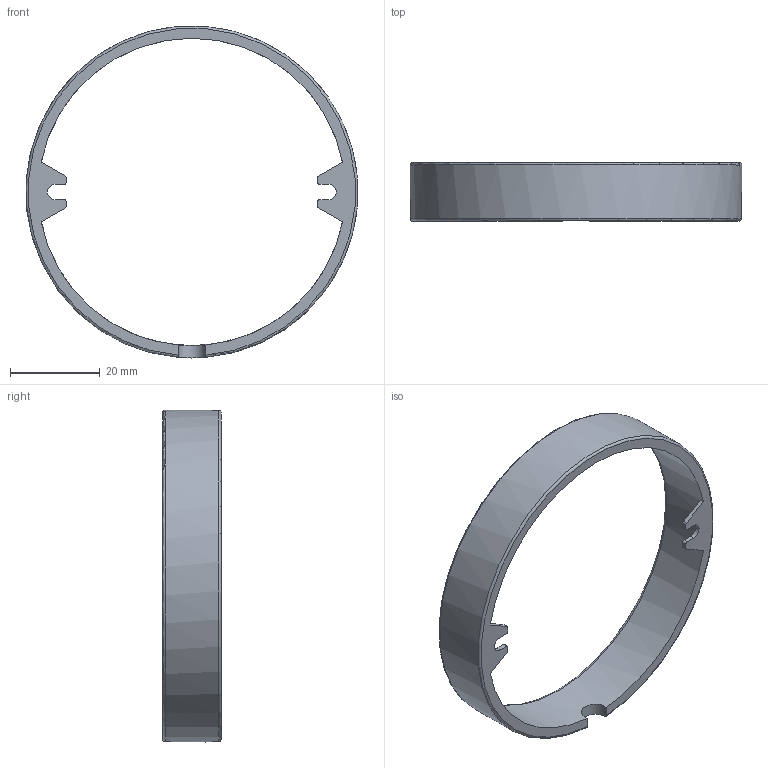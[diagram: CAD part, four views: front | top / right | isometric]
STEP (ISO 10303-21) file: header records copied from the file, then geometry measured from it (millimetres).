
FILE_DESCRIPTION(/* description */ (''),/* implementation_level */ '2;1');
FILE_NAME(/* name */ '5995498_5995489_HCL-317C Taoquan.stp',/* time_stamp */ '2019-06-03T09:44:58+02:00',/* author */ (''),/* organization */ (''),/* preprocessor_version */ 'ST-DEVELOPER v16.7',/* originating_system */ 'SIEMENS PLM Software NX 12.0',/* authorisation */ '');
FILE_SCHEMA (('AUTOMOTIVE_DESIGN { 1 0 10303 214 3 1 1 1 }'));
Length unit declared in the file: millimetre
Products named in the file (1): p.sc2314416Cicmr
Bounding box: 73.95 x 13 x 73.99 mm (x, y, z)
Volume: 7996.7 mm3; surface area: 7076.4 mm2
Topology: 1 solids, 1 shells, 34 faces, 98 edges, 65 vertices
Faces by surface type: plane 18, cylinder 13, torus 3
Full cylindrical faces by diameter (mm): 68.5 x1, 74 x1
Entity records: 1199 total; most frequent: CARTESIAN_POINT 281, DIRECTION 188, ORIENTED_EDGE 182, EDGE_CURVE 91, AXIS2_PLACEMENT_3D 66, VERTEX_POINT 62, LINE 56, VECTOR 56
